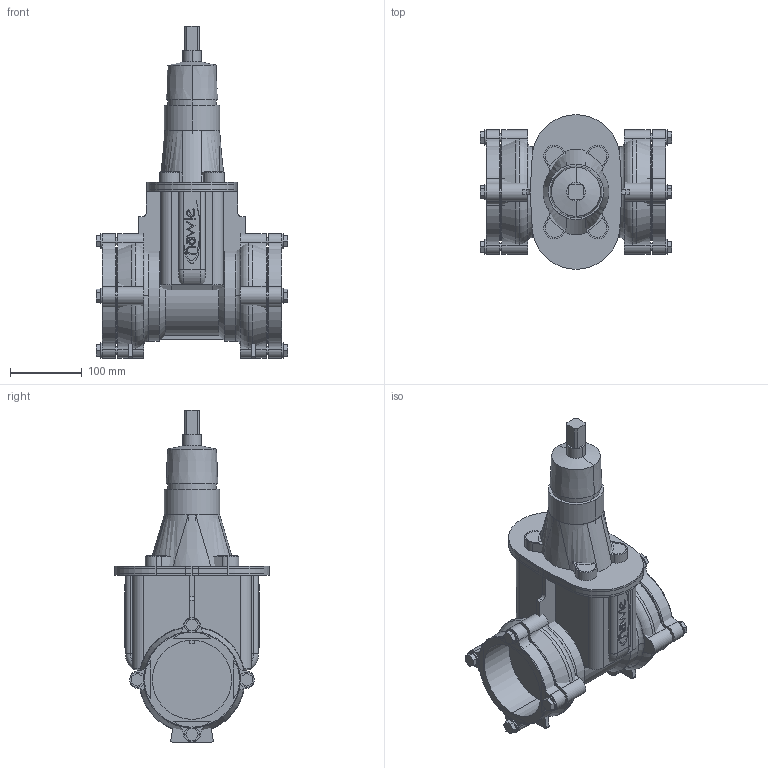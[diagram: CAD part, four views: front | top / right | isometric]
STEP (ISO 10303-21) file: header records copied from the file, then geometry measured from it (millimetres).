
FILE_DESCRIPTION(('STEP AP214'),'1');
FILE_NAME('S:/EK/USER/CAT6/3DHomepage/4040E2/4040E2-PN16-DN100-110.STP','2012-04-24T10:57:05',(' '),(' '),'Spatial InterOp 3D',' ',' ');
FILE_SCHEMA(('automotive_design'));
Length unit declared in the file: millimetre
Products named in the file (89): 3D-Objekt
Bounding box: 266.8 x 214.99 x 461.5 mm (x, y, z)
Volume: 6052171.1 mm3; surface area: 798029.3 mm2
Topology: 89 solids, 89 shells, 731 faces, 1645 edges, 1094 vertices
Faces by surface type: plane 433, cylinder 244, torus 28, cone 14, bspline 12
Entity records: 28600 total; most frequent: DIRECTION 3877, CARTESIAN_POINT 3763, ORIENTED_EDGE 3290, EDGE_CURVE 1645, AXIS2_PLACEMENT_3D 1424, VERTEX_POINT 1094, LINE 1029, VECTOR 1029
